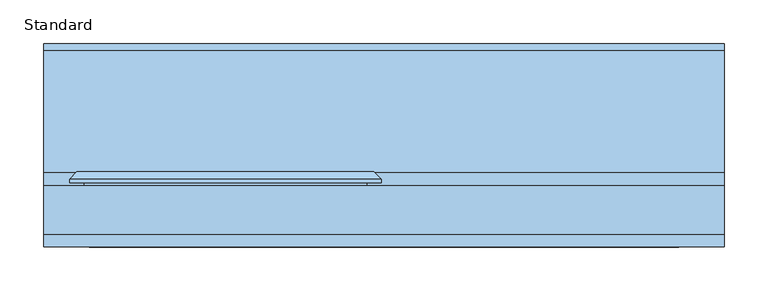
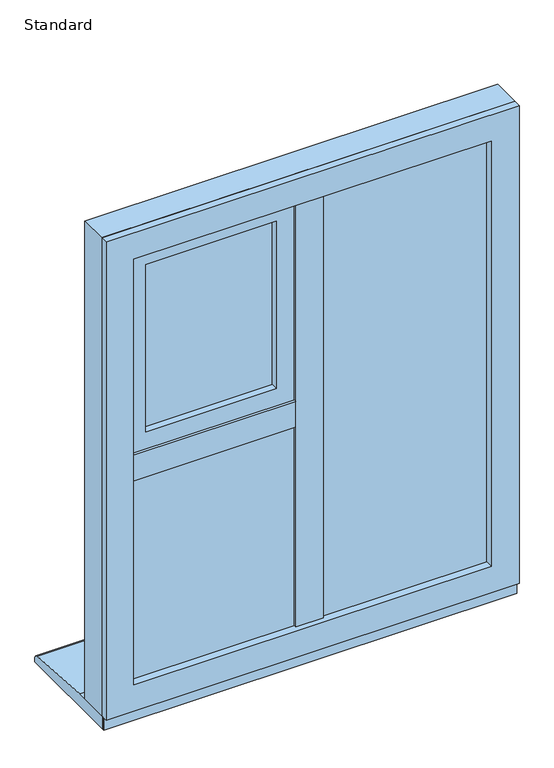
"""IFC4 building model written with IfcOpenShell, lengths in millimetres: window geometry, SMARTS_Alitherm600 : Standard."""

from ifc_helpers import new_model, si_unit, point, frame, frame_2d, origin, place, context, project, spatial, polyline, circle_curve, trimmed, segment, composite_curve, outline, extrude, faceted_brep, source, transform, mapped, element, save


def standard_a808f366(model_context):
    return source(origin(), model_context, "Body", "SolidModel", [
        extrude(outline(polyline([(-9.4, 102.8298432), (9.4, 102.8298432), (9.4, 47.2458572), (-9.4, 47.2458572), (-9.4, 102.8298432)])), frame((0.0, 0.0, 670.8979117), z_axis=(0.0, 0.0, 1.0), x_axis=(1.0, 0.0, 0.0)), (0.0, 0.0, 1.0), 883.2041766),
        extrude(outline(polyline([(-25.9020883, 47.2458572), (25.9020883, 47.2458572), (25.9020883, 43.2798432), (-25.9020883, 43.2798432), (-25.9020883, 47.2458572)])), frame((0.0, 0.0, 687.4), z_axis=(0.0, 0.0, 1.0), x_axis=(1.0, 0.0, 0.0)), (0.0, 0.0, 1.0), 850.2),
        extrude(outline(polyline([(-9.4979117, 102.8298432), (-9.4979117, 47.2458572), (-354.1020883, 47.2458572), (-354.1020883, 102.8298432), (-9.4979117, 102.8298432)])), frame((0.0, 0.0, 1103.1), z_axis=(0.0, 0.0, 1.0), x_axis=(1.0, 0.0, 0.0)), (0.0, 0.0, 1.0), 18.8),
        extrude(outline(polyline([(-26.0, 47.2458572), (-26.0, 43.2798432), (-337.6, 43.2798432), (-337.6, 47.2458572), (-26.0, 47.2458572)])), frame((0.0, 0.0, 1086.5979117), z_axis=(0.0, 0.0, 1.0), x_axis=(1.0, 0.0, 0.0)), (0.0, 0.0, 1.0), 51.8041766),
        extrude(outline(polyline([(-352.6, 77.7798432), (-11.0, 77.7798432), (-11.0, 73.7798432), (-352.6, 73.7798432), (-352.6, 77.7798432)])), frame((0.0, 0.0, 672.4), z_axis=(0.0, 0.0, 1.0), x_axis=(1.0, 0.0, 0.0)), (0.0, 0.0, 1.0), 429.1),
        extrude(outline(polyline([(-352.6, 57.7798432), (-11.0, 57.7798432), (-11.0, 53.7798432), (-352.6, 53.7798432), (-352.6, 57.7798432)])), frame((0.0, 0.0, 672.4), z_axis=(0.0, 0.0, 1.0), x_axis=(1.0, 0.0, 0.0)), (0.0, 0.0, 1.0), 429.1),
        extrude(outline(polyline([(1101.5, -352.6), (672.4, -352.6), (672.4, -11.0), (1101.5, -11.0), (1101.5, -352.6)]), holes=[polyline([(1091.5, -21.0), (682.4, -21.0), (682.4, -342.6), (1091.5, -342.6), (1091.5, -21.0)])]), frame((0.0, 57.7798432, 0.0), z_axis=(0.0, 1.0, 0.0), x_axis=(0.0, 0.0, 1.0)), (0.0, 0.0, 1.0), 16.0),
        faceted_brep([(-349.4160653, 102.7798432, 1098.3160653), (-337.2339746, 81.6798432, 1086.1339746), (-337.2339746, 81.6798432, 687.7660254), (-349.4160653, 102.7798432, 675.5839347), (-26.3660254, 81.6798432, 687.7660254), (-14.1839347, 102.7798432, 675.5839347), (-26.3660254, 81.6798432, 1086.1339746), (-14.1839347, 102.7798432, 1098.3160653), (-9.5, 81.6798432, 1103.0), (-9.5, 102.7798432, 1103.0), (-354.1, 102.7798432, 1103.0), (-354.1, 81.6798432, 1103.0), (-354.1, 102.7798432, 670.9), (-354.1, 81.6798432, 670.9), (-9.5, 102.7798432, 670.9), (-9.5, 81.6798432, 670.9)], [[[0, 1, 2, 3]], [[3, 2, 4, 5]], [[5, 4, 6, 7]], [[7, 6, 1, 0]], [[8, 9, 10, 11]], [[11, 10, 12, 13]], [[13, 12, 14, 15]], [[9, 14, 12, 10], [0, 3, 5, 7]], [[15, 14, 9, 8]], [[11, 13, 15, 8], [6, 4, 2, 1]]]),
        extrude(outline(polyline([(1516.6, -316.6), (1159.5, -316.6), (1159.5, -47.0), (1516.6, -47.0), (1516.6, -316.6)]), holes=[polyline([(1506.6, -57.0), (1169.5, -57.0), (1169.5, -306.6), (1506.6, -306.6), (1506.6, -57.0)])]), frame((0.0, 72.3211351, 0.0), z_axis=(0.0, 1.0, 0.0), x_axis=(0.0, 0.0, 1.0)), (0.0, 0.0, 1.0), 16.0),
        extrude(outline(polyline([(-316.6, 92.3211351), (-47.0, 92.3211351), (-47.0, 88.3211351), (-316.6, 88.3211351), (-316.6, 92.3211351)])), frame((0.0, 0.0, 1159.5), z_axis=(0.0, 0.0, 1.0), x_axis=(1.0, 0.0, 0.0)), (0.0, 0.0, 1.0), 357.1),
        extrude(outline(polyline([(-316.6, 72.3211351), (-47.0, 72.3211351), (-47.0, 68.3211351), (-316.6, 68.3211351), (-316.6, 72.3211351)])), frame((0.0, 0.0, 1159.5), z_axis=(0.0, 0.0, 1.0), x_axis=(1.0, 0.0, 0.0)), (0.0, 0.0, 1.0), 357.1),
        faceted_brep([(-46.6778853, 118.8818325, 1516.9221147), (-58.859976, 97.7818325, 1504.740024), (-304.740024, 97.7818325, 1504.740024), (-316.9221147, 118.8818325, 1516.9221147), (-41.9939506, 97.7818325, 1521.6060494), (-41.9939506, 118.8818325, 1521.6060494), (-321.6060494, 118.8818325, 1521.6060494), (-321.6060494, 97.7818325, 1521.6060494), (-304.740024, 97.7818325, 1171.359976), (-316.9221147, 118.8818325, 1159.1778853), (-321.6060494, 118.8818325, 1154.4939506), (-321.6060494, 97.7818325, 1154.4939506), (-58.859976, 97.7818325, 1171.359976), (-46.6778853, 118.8818325, 1159.1778853), (-41.9939506, 118.8818325, 1154.4939506), (-41.9939506, 97.7818325, 1154.4939506)], [[[0, 1, 2, 3]], [[4, 5, 6, 7]], [[3, 2, 8, 9]], [[7, 6, 10, 11]], [[9, 8, 12, 13]], [[11, 10, 14, 15]], [[13, 12, 1, 0]], [[5, 14, 10, 6], [3, 9, 13, 0]], [[15, 14, 5, 4]], [[7, 11, 15, 4], [1, 12, 8, 2]]]),
        extrude(outline(polyline([(1132.652908, -343.447092), (1132.652908, -20.152908), (1543.447092, -20.152908), (1543.447092, -343.447092), (1132.652908, -343.447092)]), holes=[polyline([(1505.1, -305.1), (1505.1, -58.5), (1171.0, -58.5), (1171.0, -305.1), (1505.1, -305.1)])]), frame((0.0, 50.2798432, 0.0), z_axis=(0.0, 1.0, 0.0), x_axis=(0.0, 0.0, 1.0)), (0.0, 0.0, 1.0), 13.0853156),
        faceted_brep([(-321.6060494, 118.8818325, 1521.6060494), (-321.6060494, 63.3651588, 1521.6060494), (-321.6060494, 63.3651588, 1154.4939506), (-321.6060494, 118.8818325, 1154.4939506), (-41.9939506, 63.3651588, 1154.4939506), (-41.9939506, 118.8818325, 1154.4939506), (-41.9939506, 63.3651588, 1521.6060494), (-41.9939506, 118.8818325, 1521.6060494), (-360.3358988, 106.2818325, 1560.3358988), (-360.3358988, 110.3519831, 1560.3358988), (-360.3358988, 110.3519831, 1115.7641012), (-360.3358988, 106.2818325, 1115.7641012), (-3.2641012, 110.3519831, 1115.7641012), (-3.2641012, 106.2818325, 1115.7641012), (-3.2641012, 110.3519831, 1560.3358988), (-3.2641012, 106.2818325, 1560.3358988), (-343.7467657, 106.2818325, 1543.7467657), (-19.8532343, 106.2818325, 1543.7467657), (-19.8532343, 106.2818325, 1132.3532343), (-343.7467657, 106.2818325, 1132.3532343), (-351.8060494, 118.8818325, 1551.8060494), (-11.7939506, 118.8818325, 1551.8060494), (-11.7939506, 118.8818325, 1124.2939506), (-351.8060494, 118.8818325, 1124.2939506), (-343.7467657, 63.3651588, 1543.7467657), (-343.7467657, 63.3651588, 1132.3532343), (-19.8532343, 63.3651588, 1132.3532343), (-19.8532343, 63.3651588, 1543.7467657)], [[[0, 1, 2, 3]], [[3, 2, 4, 5]], [[5, 4, 6, 7]], [[7, 6, 1, 0]], [[8, 9, 10, 11]], [[11, 10, 12, 13]], [[13, 12, 14, 15]], [[11, 13, 15, 8], [16, 17, 18, 19]], [[15, 14, 9, 8]], [[20, 21, 22, 23], [3, 5, 7, 0]], [[24, 16, 19, 25]], [[25, 19, 18, 26]], [[26, 18, 17, 27]], [[25, 26, 27, 24], [1, 6, 4, 2]], [[27, 17, 16, 24]], [[9, 20, 23, 10]], [[10, 23, 22, 12]], [[12, 22, 21, 14]], [[14, 21, 20, 9]]]),
        extrude(outline(polyline([(1590.0, 390.0), (1590.0, -390.0), (635.0, -390.0), (635.0, 390.0), (1590.0, 390.0)]), holes=[polyline([(670.85, 354.15), (670.85, -354.15), (1554.15, -354.15), (1554.15, 354.15), (670.85, 354.15)])]), frame((0.0, 47.2798427, 0.0), z_axis=(0.0, 1.0, 0.0), x_axis=(0.0, 0.0, 1.0)), (0.0, 0.0, 1.0), 55.5500006),
        extrude(outline(polyline([(1590.0, 390.0), (1590.0, -390.0), (635.0, -390.0), (635.0, 390.0), (1590.0, 390.0)]), holes=[polyline([(687.35, 337.65), (687.35, -337.65), (1537.65, -337.65), (1537.65, 337.65), (687.35, 337.65)])]), frame((0.0, 32.8298432, 0.0), z_axis=(0.0, 1.0, 0.0), x_axis=(0.0, 0.0, 1.0)), (0.0, 0.0, 1.0), 14.4499994),
        extrude(outline(polyline([(11.0, 77.7798432), (352.6, 77.7798432), (352.6, 73.7798432), (11.0, 73.7798432), (11.0, 77.7798432)])), frame((0.0, 0.0, 672.4), z_axis=(0.0, 0.0, 1.0), x_axis=(1.0, 0.0, 0.0)), (0.0, 0.0, 1.0), 880.2),
        extrude(outline(polyline([(11.0, 57.7798432), (352.6, 57.7798432), (352.6, 53.7798432), (11.0, 53.7798432), (11.0, 57.7798432)])), frame((0.0, 0.0, 672.4), z_axis=(0.0, 0.0, 1.0), x_axis=(1.0, 0.0, 0.0)), (0.0, 0.0, 1.0), 880.2),
        extrude(outline(polyline([(1552.6, 11.0), (672.4, 11.0), (672.4, 352.6), (1552.6, 352.6), (1552.6, 11.0)]), holes=[polyline([(1542.6, 342.6), (682.4, 342.6), (682.4, 21.0), (1542.6, 21.0), (1542.6, 342.6)])]), frame((0.0, 57.7798432, 0.0), z_axis=(0.0, 1.0, 0.0), x_axis=(0.0, 0.0, 1.0)), (0.0, 0.0, 1.0), 16.0),
        faceted_brep([(14.1839347, 102.7798432, 1549.4160653), (26.3660254, 81.6798432, 1537.2339746), (26.3660254, 81.6798432, 687.7660254), (14.1839347, 102.7798432, 675.5839347), (337.2339746, 81.6798432, 687.7660254), (349.4160653, 102.7798432, 675.5839347), (337.2339746, 81.6798432, 1537.2339746), (349.4160653, 102.7798432, 1549.4160653), (354.1, 81.6798432, 1554.1), (354.1, 102.7798432, 1554.1), (9.5, 102.7798432, 1554.1), (9.5, 81.6798432, 1554.1), (9.5, 102.7798432, 670.9), (9.5, 81.6798432, 670.9), (354.1, 102.7798432, 670.9), (354.1, 81.6798432, 670.9)], [[[0, 1, 2, 3]], [[3, 2, 4, 5]], [[5, 4, 6, 7]], [[7, 6, 1, 0]], [[8, 9, 10, 11]], [[11, 10, 12, 13]], [[13, 12, 14, 15]], [[9, 14, 12, 10], [0, 3, 5, 7]], [[15, 14, 9, 8]], [[11, 13, 15, 8], [6, 4, 2, 1]]]),
        extrude(outline(polyline([(390.0, 43.2798432), (390.0, 40.7798432), (-390.0, 40.7798432), (-390.0, 43.2798432), (390.0, 43.2798432)])), frame((0.0, 0.0, 610.0), z_axis=(0.0, 0.0, 1.0), x_axis=(1.0, 0.0, 0.0)), (0.0, 0.0, 1.0), 31.0),
        extrude(outline(composite_curve([segment(polyline([(265.7798432, 610.0), (43.2798432, 610.0), (43.2798432, 635.0), (118.7798432, 635.0), (258.4770891, 625.9276664)]), True, "CONTINUOUS"), segment(trimmed(circle_curve(frame_2d((257.7798432, 617.9581088)), 8.0), [point((258.4770891, 625.9276664))], [point((265.7798432, 617.9581088))], False, "CARTESIAN"), True, "CONTINUOUS"), segment(polyline([(265.7798432, 617.9581088), (265.7798432, 610.0)]), True, "CONTINUOUS")], self_intersect=False)), frame((-390.0, 0.0, 0.0), z_axis=(1.0, 0.0, 0.0), x_axis=(0.0, 1.0, 0.0)), (0.0, 0.0, 1.0), 780.0),
    ])


if __name__ == "__main__":
    model = new_model("IFC4")
    model_context = context("Model", 3, world=origin())
    ifc_project = project(units=[si_unit("LENGTHUNIT", "METRE", prefix="MILLI")], contexts=[model_context])
    site = spatial("IfcSite", under=ifc_project)
    building = spatial("IfcBuilding", under=site)
    placement = place(None, origin())
    standard_shape = standard_a808f366(model_context)
    element("IfcWindow", 1, ObjectType="SMARTS_Alitherm600 : Standard", at=placement, inside=building, context=model_context, shape_type="MappedRepresentation", body=[
        mapped(standard_shape, transform((0.0, 0.0, 0.0), x_axis=(1.0, 0.0, 0.0), y_axis=(0.0, 1.0, 0.0), z_axis=(0.0, 0.0, 1.0))),
    ])
    save(model, "model.ifc")
